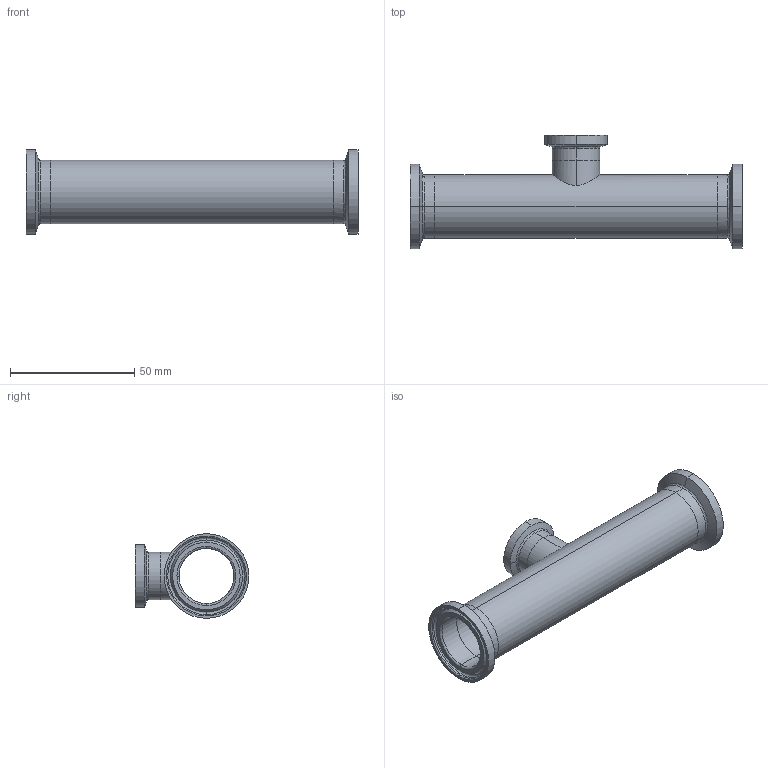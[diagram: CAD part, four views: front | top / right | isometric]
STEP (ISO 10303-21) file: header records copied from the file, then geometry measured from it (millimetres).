
FILE_DESCRIPTION (( 'STEP AP214' ), '1' );
FILE_NAME ('TEG7RS6L1.0x.75-..Type A.STEP', '2016-05-24T08:14:26', ( 'eran' ), ( '' ), 'SwSTEP 2.0', 'SolidWorks 2016', '' );
FILE_SCHEMA (( 'AUTOMOTIVE_DESIGN' ));
Length unit declared in the file: millimetre
Products named in the file (1): TEG7RS6L1.0x.75-..Type A
Bounding box: 133.4 x 45.61 x 34.01 mm (x, y, z)
Volume: 20808.2 mm3; surface area: 24792.6 mm2
Topology: 4 solids, 4 shells, 80 faces, 180 edges, 112 vertices
Faces by surface type: cylinder 32, bspline 24, plane 12, cone 12
Entity records: 2797 total; most frequent: CARTESIAN_POINT 957, DIRECTION 398, ORIENTED_EDGE 360, EDGE_CURVE 180, AXIS2_PLACEMENT_3D 177, CIRCLE 120, VERTEX_POINT 112, EDGE_LOOP 94
